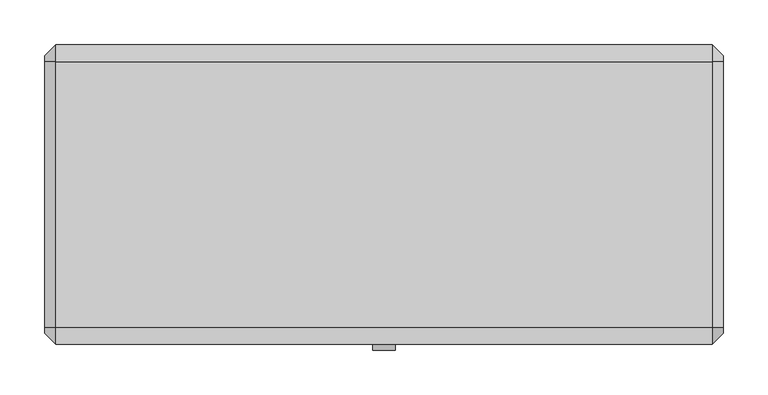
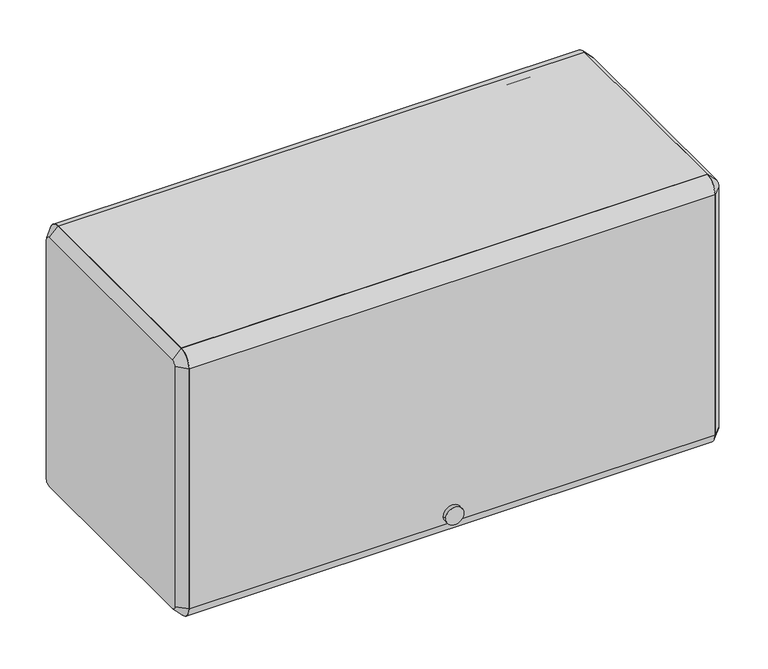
"""IFC4 building model written with IfcOpenShell, lengths in millimetres: furniture geometry."""

import ifcopenshell
import ifcopenshell.guid

model = None  # the IFC model being written
_history = None  # IfcOwnerHistory: only IFC2X3 demands one
_inside = {}  # id of a spatial element -> (the spatial element, [elements in it])
_under = {}  # id of a project, library or spatial element -> (it, [spatial elements below it])
_declared = {}  # id of a project -> (the project, [libraries it declares])
_typed = {}  # id of a type object -> (the type object, [elements of that type])
_made_of = {}  # id of a material, layer set ... -> (it, [elements and type objects made of it])


def new_model(schema):
    """Start an empty IFC model of exactly this schema.

    Asked for "IFC4X3", IfcOpenShell would pick the latest addendum, in which some entities
    have other attributes; the version numbers below select the first issue.
    IFC2X3 requires an IfcOwnerHistory on every rooted entity: one is made here for all.
    """
    global model, _history
    if schema == "IFC4X3":
        model = ifcopenshell.file(schema_version=(4, 3, 0, 0))
    else:
        model = ifcopenshell.file(schema=schema)
    _inside.clear()
    _under.clear()
    _declared.clear()
    _typed.clear()
    _made_of.clear()
    _history = None
    if model.schema == "IFC2X3":
        org = make("IfcOrganization", Name="unknown")
        user = make(
            "IfcPersonAndOrganization",
            ThePerson=make("IfcPerson", FamilyName="unknown"),
            TheOrganization=org,
        )
        app = make(
            "IfcApplication",
            ApplicationDeveloper=org,
            Version="unknown",
            ApplicationFullName="unknown",
            ApplicationIdentifier="unknown",
        )
        _history = make(
            "IfcOwnerHistory",
            OwningUser=user,
            OwningApplication=app,
            ChangeAction="ADDED",
            CreationDate=0,
        )
    return model


def make(cls, **values):
    """One entity of the class cls with the attributes given. An attribute that is None is left unset."""
    return model.create_entity(
        cls, **{name: value for name, value in values.items() if value is not None}
    )


def rooted(cls, **values):
    """An entity with a GlobalId (a new one), such as an element, a storey or a relation."""
    return make(cls, GlobalId=ifcopenshell.guid.new(), OwnerHistory=_history, **values)


def si_unit(unit_type, name, prefix=None):
    """IfcSIUnit, for example si_unit("LENGTHUNIT", "METRE", prefix="MILLI")."""
    return make("IfcSIUnit", UnitType=unit_type, Prefix=prefix, Name=name)


def assignment(units):
    """IfcUnitAssignment: the units of a project."""
    return None if units is None else make("IfcUnitAssignment", Units=units)


def point(xyz):
    """IfcCartesianPoint."""
    return None if xyz is None else make("IfcCartesianPoint", Coordinates=xyz)


def direction(xyz):
    """IfcDirection."""
    return None if xyz is None else make("IfcDirection", DirectionRatios=xyz)


def frame(location, z_axis=None, x_axis=None):
    """IfcAxis2Placement3D, a coordinate frame: its origin and axes. An axis left out is left unset."""
    return make(
        "IfcAxis2Placement3D",
        Location=point(location),
        Axis=direction(z_axis),
        RefDirection=direction(x_axis),
    )


def frame_2d(location, x_axis=None):
    """IfcAxis2Placement2D, a coordinate frame in the plane: its origin and x axis."""
    return make(
        "IfcAxis2Placement2D", Location=point(location), RefDirection=direction(x_axis)
    )


def origin():
    """The frame at (0, 0, 0) with its axes left unset."""
    return frame((0.0, 0.0, 0.0))


def place(relative_to, where):
    """IfcLocalPlacement: puts the frame where relative to a parent placement (None: the world)."""
    return make(
        "IfcLocalPlacement", PlacementRelTo=relative_to, RelativePlacement=where
    )


def context(
    kind, dimensions, precision=None, world=None, true_north=None, identifier=None
):
    """IfcGeometricRepresentationContext, for example the 3D "Model" context."""
    return make(
        "IfcGeometricRepresentationContext",
        ContextIdentifier=identifier,
        ContextType=kind,
        CoordinateSpaceDimension=dimensions,
        Precision=precision,
        WorldCoordinateSystem=world,
        TrueNorth=true_north,
    )


def project(units=None, contexts=None):
    """IfcProject with its units and contexts."""
    return rooted(
        "IfcProject",
        Name="project",
        RepresentationContexts=contexts,
        UnitsInContext=assignment(units),
    )


def spatial(cls, under=None, at=None, **own):
    """A site, building, storey or space (cls), placed at a placement, below another one or the project."""
    s = rooted(cls, ObjectPlacement=at, **own)
    if under is not None:
        _under.setdefault(under.id(), (under, []))[1].append(s)
    return s


def polyline(points):
    """IfcPolyline through the points."""
    return make("IfcPolyline", Points=[point(p) for p in points])


def circle_curve(where, radius):
    """IfcCircle in the frame where."""
    return make("IfcCircle", Position=where, Radius=radius)


def trimmed(basis, trim1, trim2, sense, master):
    """IfcTrimmedCurve: the piece of a basis curve between two trims."""
    return make(
        "IfcTrimmedCurve",
        BasisCurve=basis,
        Trim1=trim1,
        Trim2=trim2,
        SenseAgreement=sense,
        MasterRepresentation=master,
    )


def segment(curve, same_sense, transition):
    """IfcCompositeCurveSegment."""
    return make(
        "IfcCompositeCurveSegment",
        Transition=transition,
        SameSense=same_sense,
        ParentCurve=curve,
    )


def composite_curve(segments, self_intersect=None):
    """IfcCompositeCurve: segments joined end to end."""
    return make("IfcCompositeCurve", Segments=segments, SelfIntersect=self_intersect)


def outline(outer, holes=None, kind="AREA"):
    """IfcArbitraryClosedProfileDef: a profile drawn as a closed curve; with holes, ...WithVoids."""
    if holes is None:
        return make("IfcArbitraryClosedProfileDef", ProfileType=kind, OuterCurve=outer)
    return make(
        "IfcArbitraryProfileDefWithVoids",
        ProfileType=kind,
        OuterCurve=outer,
        InnerCurves=holes,
    )


def extrude(swept, where, along, depth):
    """IfcExtrudedAreaSolid: the profile swept, set in the frame where, extruded along a direction by depth."""
    return make(
        "IfcExtrudedAreaSolid",
        SweptArea=swept,
        Position=where,
        ExtrudedDirection=direction(along),
        Depth=depth,
    )


def shape(context_of_items, identifier, shape_type, items):
    """IfcShapeRepresentation: the items that make up one representation, for example the "Body"."""
    return make(
        "IfcShapeRepresentation",
        ContextOfItems=context_of_items,
        RepresentationIdentifier=identifier,
        RepresentationType=shape_type,
        Items=items,
    )


def source(mapping_origin, context_of_items, identifier, shape_type, items):
    """IfcRepresentationMap: a shape defined once, which mapped items show again and again."""
    return make(
        "IfcRepresentationMap",
        MappingOrigin=mapping_origin,
        MappedRepresentation=shape(context_of_items, identifier, shape_type, items),
    )


def transform(
    local_origin,
    x_axis=None,
    y_axis=None,
    z_axis=None,
    scale=None,
    scale2=None,
    scale3=None,
    uniform=True,
):
    """IfcCartesianTransformationOperator3D, or its non-uniform kind. x_axis, y_axis, z_axis: its Axis1, 2, 3."""
    if uniform:
        return make(
            "IfcCartesianTransformationOperator3D",
            Axis1=direction(x_axis),
            Axis2=direction(y_axis),
            LocalOrigin=point(local_origin),
            Scale=scale,
            Axis3=direction(z_axis),
        )
    return make(
        "IfcCartesianTransformationOperator3DnonUniform",
        Axis1=direction(x_axis),
        Axis2=direction(y_axis),
        LocalOrigin=point(local_origin),
        Scale=scale,
        Axis3=direction(z_axis),
        Scale2=scale2,
        Scale3=scale3,
    )


def mapped(mapping_source, mapping_target):
    """IfcMappedItem: shows the shape of a source again, moved by a transform."""
    return make(
        "IfcMappedItem", MappingSource=mapping_source, MappingTarget=mapping_target
    )


def made_of(thing, what):
    """Note that an element or type object is made of a material, layer set ...; save() writes the relation."""
    if what is not None:
        _made_of.setdefault(what.id(), (what, []))[1].append(thing)
    return thing


def element(
    cls,
    number,
    at=None,
    inside=None,
    cuts=None,
    type_object=None,
    material=None,
    context=None,
    identifier="Body",
    shape_type=None,
    held_by="IfcProductDefinitionShape",
    body=None,
    shapes=None,
    **own,
):
    """One element of the class cls, such as IfcWall. Its Tag is "e" and its number.

    at: its placement. inside: the storey or other place that contains it. cuts: it is an
    opening in that element (IfcRelVoidsElement). A single representation is given by context,
    identifier, shape_type and body (its items); several are given by shapes. held_by: the class
    of the entity that holds the representations. save() writes the other relations.
    """
    e = rooted(cls, Tag="e%d" % number, ObjectPlacement=at, **own)
    if body is not None:
        shapes = [shape(context, identifier, shape_type, body)]
    if shapes is not None:
        e.Representation = make(held_by, Representations=shapes)
    if inside is not None:
        _inside.setdefault(inside.id(), (inside, []))[1].append(e)
    if cuts is not None:
        rooted(
            "IfcRelVoidsElement", RelatingBuildingElement=cuts, RelatedOpeningElement=e
        )
    if type_object is not None:
        _typed.setdefault(type_object.id(), (type_object, []))[1].append(e)
    return made_of(e, material)


def aggregate(whole, parts):
    """IfcRelAggregates: a whole, such as a stair, and the parts it consists of."""
    return rooted("IfcRelAggregates", RelatingObject=whole, RelatedObjects=parts)


def save(model, path):
    """Write the relations noted so far, then the file.

    IfcRelAggregates (storeys below a building ...), IfcRelContainedInSpatialStructure (elements
    in a storey), IfcRelDefinesByType, IfcRelAssociatesMaterial and IfcRelDeclares: one each for
    every whole, place, type object, material and project.
    """
    for whole, parts in _under.values():
        aggregate(whole, parts)
    for where, things in _inside.values():
        rooted(
            "IfcRelContainedInSpatialStructure",
            RelatedElements=things,
            RelatingStructure=where,
        )
    for kind, things in _typed.values():
        rooted("IfcRelDefinesByType", RelatedObjects=things, RelatingType=kind)
    for what, things in _made_of.values():
        rooted("IfcRelAssociatesMaterial", RelatedObjects=things, RelatingMaterial=what)
    for by, libraries in _declared.values():
        rooted("IfcRelDeclares", RelatingContext=by, RelatedDefinitions=libraries)
    model.write(path)


def plane_surface(at):
    """IfcPlane: the flat surface through the origin of the frame at, square to its z axis."""
    return make("IfcPlane", Position=at)


def revolved_surface(curve, axis_point, axis_direction):
    """IfcSurfaceOfRevolution: the curve turned about the line through axis_point along axis_direction."""
    return make(
        "IfcSurfaceOfRevolution",
        SweptCurve=make("IfcArbitraryOpenProfileDef", ProfileType="CURVE", Curve=curve),
        AxisPosition=make("IfcAxis1Placement", Location=point(axis_point), Axis=direction(axis_direction)),
    )


def advanced_brep(points, edges, surfaces, faces):
    """IfcAdvancedBrep: a solid bounded by faces that lie on surfaces and meet in shared edges.

    An edge is (start, end): straight between two places in points (the first is 0);
    or (start, end, curve); or (start, end, curve, False) where it runs against its curve.
    A face is (place in surfaces, loops), or (place, loops, False) where it looks against
    its surface's normal. A loop lists edges by number (the first is 1), with a minus sign
    where the edge is run from its end to its start. The first loop is the outer one.
    """
    corners = [point(p) for p in points]
    vertices = [make("IfcVertexPoint", VertexGeometry=c) for c in corners]
    made = []
    for start, end, *more in edges:
        made.append(
            make(
                "IfcEdgeCurve",
                EdgeStart=vertices[start],
                EdgeEnd=vertices[end],
                EdgeGeometry=more[0] if more else make("IfcPolyline", Points=[corners[start], corners[end]]),
                SameSense=more[1] if len(more) > 1 else True,
            )
        )
    hull = []
    for where, loops, *sense in faces:
        bounds = []
        for j, loop in enumerate(loops):
            ring = [make("IfcOrientedEdge", EdgeElement=made[abs(k) - 1], Orientation=k > 0) for k in loop]
            bounds.append(
                make(
                    "IfcFaceOuterBound" if j == 0 else "IfcFaceBound",
                    Bound=make("IfcEdgeLoop", EdgeList=ring),
                    Orientation=True,
                )
            )
        hull.append(make("IfcAdvancedFace", Bounds=bounds, FaceSurface=surfaces[where], SameSense=sense[0] if sense else True))
    return make("IfcAdvancedBrep", Outer=make("IfcClosedShell", CfsFaces=hull))


def furniture_3e50636a(model_context):
    return source(origin(), model_context, "Body", "SolidModel", [
        extrude(outline(composite_curve([segment(polyline([(-136.525, 2019.3), (-136.525, 2032.0), (161.925, 2032.0)]), True, "CONTINUOUS"), segment(trimmed(circle_curve(frame_2d((161.925, 2012.95)), 19.05), [point((161.925, 2032.0))], [point((180.975, 2012.95))], False, "CARTESIAN"), True, "CONTINUOUS"), segment(polyline([(180.975, 2012.95), (168.275, 2012.95)]), True, "CONTINUOUS"), segment(trimmed(circle_curve(frame_2d((161.925, 2012.95)), 6.35), [point((168.275, 2012.95))], [point((161.925, 2019.3))], True, "CARTESIAN"), True, "CONTINUOUS"), segment(polyline([(161.925, 2019.3), (-136.525, 2019.3)]), True, "CONTINUOUS")], self_intersect=False)), frame((-368.3, 0.0, 0.0), z_axis=(1.0, 0.0, 0.0), x_axis=(0.0, 1.0, 0.0)), (0.0, 0.0, 1.0), 736.6),
        extrude(outline(composite_curve([segment(trimmed(circle_curve(frame_2d((-136.525, 2012.95)), 19.05), [point((-155.575, 2012.95))], [point((-136.525, 2032.0))], False, "CARTESIAN"), True, "CONTINUOUS"), segment(polyline([(-136.525, 2032.0), (-136.525, 2019.3)]), True, "CONTINUOUS"), segment(trimmed(circle_curve(frame_2d((-136.525, 2012.95)), 6.35), [point((-136.525, 2019.3))], [point((-142.875, 2012.95))], True, "CARTESIAN"), True, "CONTINUOUS"), segment(polyline([(-142.875, 2012.95), (-142.875, 1657.35)]), True, "CONTINUOUS"), segment(trimmed(circle_curve(frame_2d((-136.525, 1657.35)), 6.35), [point((-142.875, 1657.35))], [point((-136.525, 1651.0))], True, "CARTESIAN"), True, "CONTINUOUS"), segment(polyline([(-136.525, 1651.0), (-136.525, 1638.3)]), True, "CONTINUOUS"), segment(trimmed(circle_curve(frame_2d((-136.525, 1657.35)), 19.05), [point((-136.525, 1638.3))], [point((-155.575, 1657.35))], False, "CARTESIAN"), True, "CONTINUOUS"), segment(polyline([(-155.575, 1657.35), (-155.575, 2012.95)]), True, "CONTINUOUS")], self_intersect=False)), frame((-368.3, 0.0, 0.0), z_axis=(1.0, 0.0, 0.0), x_axis=(0.0, 1.0, 0.0)), (0.0, 0.0, 1.0), 736.6),
        extrude(outline(composite_curve([segment(trimmed(circle_curve(frame_2d((1670.0118906, 0.0201199)), 12.7253951), [point((1670.0118906, 12.745515))], [point((1670.0118906, -12.7052752))], False, "CARTESIAN"), True, "CONTINUOUS"), segment(trimmed(circle_curve(frame_2d((1670.0118906, 0.0201199)), 12.7253951), [point((1670.0118906, -12.7052752))], [point((1670.0118906, 12.745515))], False, "CARTESIAN"), True, "CONTINUOUS")], self_intersect=False)), frame((0.0, -161.925, 0.0), z_axis=(0.0, 1.0, 0.0), x_axis=(0.0, 0.0, 1.0)), (0.0, 0.0, 1.0), 6.35),
        extrude(outline(polyline([(-136.525, 1676.4), (161.925, 1676.4), (161.925, 1714.5), (174.625, 1714.5), (174.625, 1711.325), (165.1, 1711.325), (165.1, 1673.225), (-133.35, 1673.225), (-133.35, 1654.175), (-136.525, 1654.175), (-136.525, 1676.4)])), frame((-368.3, 0.0, 0.0), z_axis=(1.0, 0.0, 0.0), x_axis=(0.0, 1.0, 0.0)), (0.0, 0.0, 1.0), 736.6),
        advanced_brep(
        [(381.0, 161.925, 2019.3), (381.0, -136.525, 2019.3), (381.0, -142.875, 2012.95), (381.0, -142.875, 1657.35), (381.0, -136.525, 1651.0), (381.0, 161.925, 1651.0), (381.0, 168.275, 1657.35), (381.0, 168.275, 2012.95), (368.3, 161.925, 2032.0), (368.3, 180.975, 2012.95), (368.3, 180.975, 1657.35), (368.3, 161.925, 1638.3), (368.3, -136.525, 1638.3), (368.3, -155.575, 1657.35), (368.3, -155.575, 2012.95), (368.3, -136.525, 2032.0)],
        [
            (0, 1),
            (1, 2, circle_curve(frame((381.0, -136.525, 2012.95), z_axis=(1.0, 6.490807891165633e-12, -6.586731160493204e-12), x_axis=(6.586694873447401e-12, 0.0, 1.0)), 6.35)),
            (2, 3),
            (3, 4, circle_curve(frame((381.0, -136.525, 1657.35), z_axis=(1.0, 3.3733016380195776e-12, 3.3892888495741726e-12), x_axis=(3.373343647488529e-12, -1.0, 0.0)), 6.35)),
            (4, 5),
            (5, 6, circle_curve(frame((381.0, 161.925, 1657.35), z_axis=(1.0, 3.378630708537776e-12, -3.3679725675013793e-12), x_axis=(-3.3680053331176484e-12, 0.0, -1.0)), 6.35)),
            (6, 7),
            (7, 0, circle_curve(frame((381.0, 161.925, 2012.95), z_axis=(1.0, 6.482814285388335e-12, 6.3948846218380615e-12), x_axis=(-6.482754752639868e-12, 1.0, 0.0)), 6.35)),
            (8, 9, circle_curve(frame((368.3, 161.925, 2012.95), z_axis=(-1.0, -6.482814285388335e-12, -6.3948846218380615e-12), x_axis=(-6.482754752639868e-12, 1.0, 0.0)), 19.05)),
            (9, 10),
            (10, 11, circle_curve(frame((368.3, 161.925, 1657.35), z_axis=(-1.0, -3.378630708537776e-12, 3.3679725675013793e-12), x_axis=(-3.3680053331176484e-12, 0.0, -1.0)), 19.05)),
            (11, 12),
            (12, 13, circle_curve(frame((368.3, -136.525, 1657.35), z_axis=(-1.0, -3.3733016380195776e-12, -3.3892888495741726e-12), x_axis=(3.373343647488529e-12, -1.0, 0.0)), 19.05)),
            (13, 14),
            (14, 15, circle_curve(frame((368.3, -136.525, 2012.95), z_axis=(-1.0, -6.490807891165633e-12, 6.586731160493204e-12), x_axis=(6.586694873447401e-12, 0.0, 1.0)), 19.05)),
            (15, 8),
            (15, 1),
            (0, 8),
            (14, 2),
            (13, 3),
            (12, 4),
            (11, 5),
            (10, 6),
            (9, 7),
        ],
        [
            plane_surface(frame((381.0, 12.7, 1835.15), z_axis=(1.0, 0.0, 0.0), x_axis=(0.0, -1.0, 0.0))),
            plane_surface(frame((368.3, 12.7, 1835.15), z_axis=(-1.0, 0.0, 0.0), x_axis=(0.0, -1.0, 0.0))),
            plane_surface(frame((368.3, 12.7, 2032.0), z_axis=(0.707106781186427, 0.0, 0.7071067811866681), x_axis=(0.0, -1.0, 0.0))),
            revolved_surface(polyline([(381.00000000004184, -136.525, 2019.2999999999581), (368.3, -136.525, 2032.0)]), (387.35, -136.525, 2012.95), (-1.0, -6.490807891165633e-12, 6.586731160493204e-12)),
            plane_surface(frame((368.3, -155.575, 1835.15), z_axis=(0.7071067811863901, -0.7071067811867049, 0.0), x_axis=(0.0, 0.0, -1.0))),
            revolved_surface(polyline([(381.00000000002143, -142.8749999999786, 1657.35), (368.2999999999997, -155.5750000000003, 1657.35)]), (387.35, -136.525, 1657.35), (-1.0, -3.3733016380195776e-12, -3.3892888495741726e-12)),
            plane_surface(frame((368.3, 12.7, 1638.3), z_axis=(0.7071067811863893, 0.0, -0.7071067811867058), x_axis=(0.0, 1.0, 0.0))),
            revolved_surface(polyline([(381.00000000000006, 161.925, 1651.0), (368.29999999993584, 161.925, 1638.2999999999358)]), (387.35, 161.925, 1657.35), (-1.0, -3.378630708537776e-12, 3.3679725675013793e-12)),
            plane_surface(frame((368.3, 180.975, 1835.15), z_axis=(0.7071067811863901, 0.7071067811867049, 0.0), x_axis=(0.0, 0.0, 1.0))),
            revolved_surface(polyline([(381.0, 168.27500000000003, 2012.95), (368.2999999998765, 180.9750000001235, 2012.95)]), (387.35, 161.925, 2012.95), (-1.0, -6.482814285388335e-12, -6.3948846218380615e-12)),
        ],
        [
            (0, [[1, 2, 3, 4, 5, 6, 7, 8]]),
            (1, [[9, 10, 11, 12, 13, 14, 15, 16]]),
            (2, [[-16, 17, -1, 18]]),
            (3, [[-15, 19, -2, -17]]),
            (4, [[-14, 20, -3, -19]]),
            (5, [[-13, 21, -4, -20]]),
            (6, [[-12, 22, -5, -21]]),
            (7, [[-11, 23, -6, -22]]),
            (8, [[-10, 24, -7, -23]]),
            (9, [[-9, -18, -8, -24]]),
        ],
    ),
        advanced_brep(
        [(-381.0, -136.525, 2019.3), (-381.0, 161.925, 2019.3), (-381.0, 168.275, 2012.95), (-381.0, 168.275, 1657.35), (-381.0, 161.925, 1651.0), (-381.0, -136.525, 1651.0), (-381.0, -142.875, 1657.35), (-381.0, -142.875, 2012.95), (-368.3, -136.525, 2032.0), (-368.3, -155.575, 2012.95), (-368.3, -155.575, 1657.35), (-368.3, -136.525, 1638.3), (-368.3, 161.925, 1638.3), (-368.3, 180.975, 1657.35), (-368.3, 180.975, 2012.95), (-368.3, 161.925, 2032.0)],
        [
            (0, 1),
            (1, 2, circle_curve(frame((-381.0, 161.925, 2012.95), z_axis=(-1.0, 3.36264349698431e-12, 3.431921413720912e-12), x_axis=(3.431908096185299e-12, 0.0, 1.0)), 6.35)),
            (2, 3),
            (3, 4, circle_curve(frame((-381.0, 161.925, 1657.35), z_axis=(-1.0, 0.0, 0.0), x_axis=(0.0, 1.0, 0.0)), 6.35)),
            (4, 5),
            (5, 6, circle_curve(frame((-381.0, -136.525, 1657.35), z_axis=(-1.0, 0.0, 0.0), x_axis=(0.0, 0.0, -1.0)), 6.35)),
            (6, 7),
            (7, 0, circle_curve(frame((-381.0, -136.525, 2012.95), z_axis=(-1.0, 3.36930483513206e-12, -3.282707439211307e-12), x_axis=(-3.3692614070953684e-12, -1.0, 0.0)), 6.35)),
            (8, 9, circle_curve(frame((-368.3, -136.525, 2012.95), z_axis=(1.0, -3.36930483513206e-12, 3.282707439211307e-12), x_axis=(-3.3692614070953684e-12, -1.0, 0.0)), 19.05)),
            (9, 10),
            (10, 11, circle_curve(frame((-368.3, -136.525, 1657.35), z_axis=(1.0, 0.0, 0.0), x_axis=(0.0, 0.0, -1.0)), 19.05)),
            (11, 12),
            (12, 13, circle_curve(frame((-368.3, 161.925, 1657.35), z_axis=(1.0, 0.0, 0.0), x_axis=(0.0, 1.0, 0.0)), 19.05)),
            (13, 14),
            (14, 15, circle_curve(frame((-368.3, 161.925, 2012.95), z_axis=(1.0, -3.36264349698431e-12, -3.431921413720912e-12), x_axis=(3.431908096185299e-12, 0.0, 1.0)), 19.05)),
            (15, 8),
            (15, 1),
            (0, 8),
            (14, 2),
            (13, 3),
            (12, 4),
            (11, 5),
            (10, 6),
            (9, 7),
        ],
        [
            plane_surface(frame((-381.0, 12.7, 1835.15), z_axis=(-1.0, 0.0, 0.0), x_axis=(0.0, -1.0, 0.0))),
            plane_surface(frame((-368.3, 12.7, 1835.15), z_axis=(1.0, 0.0, 0.0), x_axis=(0.0, -1.0, 0.0))),
            plane_surface(frame((-368.3, 12.7, 2032.0), z_axis=(-0.7071067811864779, 0.0, 0.7071067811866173), x_axis=(0.0, 1.0, 0.0))),
            revolved_surface(polyline([(-381.0, 161.925, 2019.3), (-368.29999999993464, 161.925, 2032.0000000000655)]), (-387.35, 161.925, 2012.95), (1.0, -3.36264349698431e-12, -3.431921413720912e-12)),
            plane_surface(frame((-368.3, 180.975, 1835.15), z_axis=(-0.7071067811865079, 0.7071067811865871, 0.0), x_axis=(0.0, 0.0, -1.0))),
            revolved_surface(polyline([(-381.0, 168.27500000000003, 1657.35), (-368.3, 180.975, 1657.35)]), (-387.35, 161.925, 1657.35), (1.0, 0.0, 0.0)),
            plane_surface(frame((-368.3, 12.7, 1638.3), z_axis=(-0.7071067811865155, 0.0, -0.7071067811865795), x_axis=(0.0, -1.0, 0.0))),
            revolved_surface(polyline([(-381.0, -136.525, 1651.0), (-368.3, -136.525, 1638.3)]), (-387.35, -136.525, 1657.35), (1.0, 0.0, 0.0)),
            plane_surface(frame((-368.3, -155.575, 1835.15), z_axis=(-0.7071067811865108, -0.7071067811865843, 0.0), x_axis=(0.0, 0.0, 1.0))),
            revolved_surface(polyline([(-381.0000000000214, -142.87499999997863, 2012.95), (-368.3, -155.575, 2012.95)]), (-387.35, -136.525, 2012.95), (1.0, -3.36930483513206e-12, 3.282707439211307e-12)),
        ],
        [
            (0, [[1, 2, 3, 4, 5, 6, 7, 8]]),
            (1, [[9, 10, 11, 12, 13, 14, 15, 16]]),
            (2, [[-16, 17, -1, 18]]),
            (3, [[-15, 19, -2, -17]]),
            (4, [[-14, 20, -3, -19]]),
            (5, [[-13, 21, -4, -20]]),
            (6, [[-12, 22, -5, -21]]),
            (7, [[-11, 23, -6, -22]]),
            (8, [[-10, 24, -7, -23]]),
            (9, [[-9, -18, -8, -24]]),
        ],
    ),
    ])


if __name__ == "__main__":
    model = new_model("IFC4")
    model_context = context("Model", 3, world=origin())
    ifc_project = project(units=[si_unit("LENGTHUNIT", "METRE", prefix="MILLI")], contexts=[model_context])
    site = spatial("IfcSite", under=ifc_project)
    building = spatial("IfcBuilding", under=site)
    placement = place(None, origin())
    furniture_shape = furniture_3e50636a(model_context)
    element("IfcFurniture", 1, ObjectType="HermanMiller_ActionOffice_A3352_B-StyleFlipperDoorUnit : 15 1/2\"H x 13\"D x 30\"W", at=placement, inside=building, context=model_context, shape_type="MappedRepresentation", body=[
        mapped(furniture_shape, transform((0.0, 0.0, 0.0), x_axis=(1.0, 0.0, 0.0), y_axis=(0.0, 1.0, 0.0), z_axis=(0.0, 0.0, 1.0))),
    ])
    save(model, "model.ifc")
